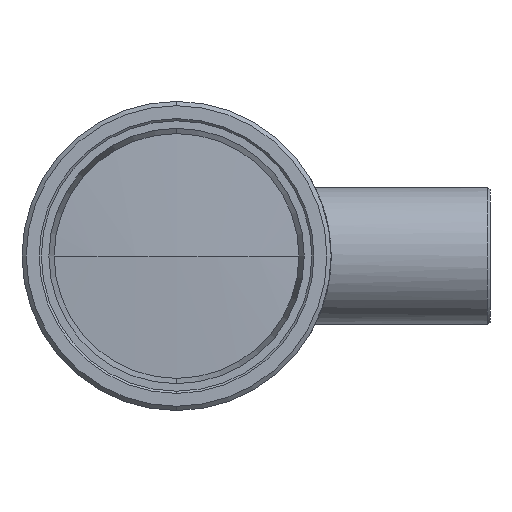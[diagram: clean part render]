
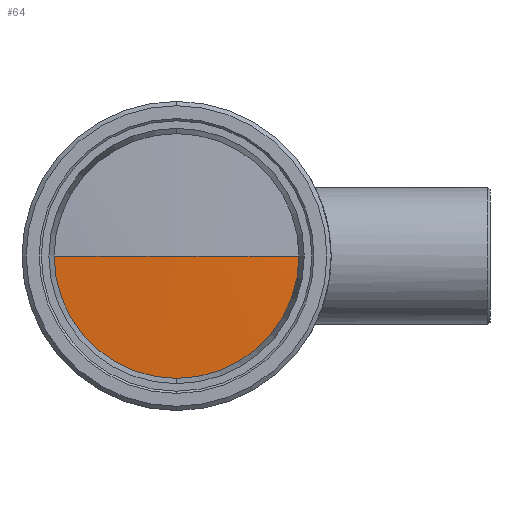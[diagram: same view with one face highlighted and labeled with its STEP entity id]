
A CAD part, left-side view. The second image highlights one B-rep face of the part: STEP entity #64.
In plain terms, the highlighted spherical face has radius 190 mm.
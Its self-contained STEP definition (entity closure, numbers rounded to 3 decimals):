
#64 = ADVANCED_FACE ( 'NONE', ( #499 ), #495, .T. ) ;
#94 = ORIENTED_EDGE ( 'NONE', *, *, #1733, .F. ) ;
#106 = ORIENTED_EDGE ( 'NONE', *, *, #1764, .T. ) ;
#107 = ORIENTED_EDGE ( 'NONE', *, *, #1779, .T. ) ;
#108 = ORIENTED_EDGE ( 'NONE', *, *, #1780, .T. ) ;
#299 = EDGE_LOOP ( 'NONE', ( #106, #108, #94, #107 ) ) ;
#495 = SPHERICAL_SURFACE ( 'NONE', #1867, 190. ) ;
#499 = FACE_OUTER_BOUND ( 'NONE', #299, .T. ) ;
#664 = CIRCLE ( 'NONE', #720, 190. ) ;
#720 = AXIS2_PLACEMENT_3D ( 'NONE', #2215, #2216, #2217 ) ;
#742 = AXIS2_PLACEMENT_3D ( 'NONE', #1068, #1069, #1070 ) ;
#753 = AXIS2_PLACEMENT_3D ( 'NONE', #1105, #1106, #1107 ) ;
#754 = AXIS2_PLACEMENT_3D ( 'NONE', #1110, #1111, #1112 ) ;
#840 = VERTEX_POINT ( 'NONE', #1466 ) ;
#843 = VERTEX_POINT ( 'NONE', #1344 ) ;
#877 = VERTEX_POINT ( 'NONE', #1522 ) ;
#881 = VERTEX_POINT ( 'NONE', #1281 ) ;
#920 = CIRCLE ( 'NONE', #742, 14.25 ) ;
#943 = CIRCLE ( 'NONE', #753, 14.25 ) ;
#944 = CIRCLE ( 'NONE', #754, 190. ) ;
#1068 = CARTESIAN_POINT ( 'NONE',  ( -194.266, 0., 0. ) ) ;
#1069 = DIRECTION ( 'NONE',  ( -1., 0., 0. ) ) ;
#1070 = DIRECTION ( 'NONE',  ( 0., 0., 1. ) ) ;
#1105 = CARTESIAN_POINT ( 'NONE',  ( -194.266, 0., 0. ) ) ;
#1106 = DIRECTION ( 'NONE',  ( -1., 0., 0. ) ) ;
#1107 = DIRECTION ( 'NONE',  ( 0., 0., 1. ) ) ;
#1110 = CARTESIAN_POINT ( 'NONE',  ( -4.801, 0., 0. ) ) ;
#1111 = DIRECTION ( 'NONE',  ( 0., 0., -1. ) ) ;
#1112 = DIRECTION ( 'NONE',  ( 0., 1., 0. ) ) ;
#1281 = CARTESIAN_POINT ( 'NONE',  ( -194.266, 0., -14.25 ) ) ;
#1344 = CARTESIAN_POINT ( 'NONE',  ( -194.802, 0., 0. ) ) ;
#1450 = DIRECTION ( 'NONE',  ( 0., 0., -1. ) ) ;
#1454 = CARTESIAN_POINT ( 'NONE',  ( -4.801, 0., 0. ) ) ;
#1466 = CARTESIAN_POINT ( 'NONE',  ( -194.266, 14.25, 0. ) ) ;
#1479 = DIRECTION ( 'NONE',  ( 0., 1., 0. ) ) ;
#1522 = CARTESIAN_POINT ( 'NONE',  ( -194.266, -14.25, 0. ) ) ;
#1733 = EDGE_CURVE ( 'NONE', #840, #843, #664, .T. ) ;
#1764 = EDGE_CURVE ( 'NONE', #881, #877, #920, .T. ) ;
#1779 = EDGE_CURVE ( 'NONE', #840, #881, #943, .T. ) ;
#1780 = EDGE_CURVE ( 'NONE', #877, #843, #944, .T. ) ;
#1867 = AXIS2_PLACEMENT_3D ( 'NONE', #1454, #1450, #1479 ) ;
#2215 = CARTESIAN_POINT ( 'NONE',  ( -4.801, 0., 0. ) ) ;
#2216 = DIRECTION ( 'NONE',  ( 0., 0., 1. ) ) ;
#2217 = DIRECTION ( 'NONE',  ( 1., 0., 0. ) ) ;
